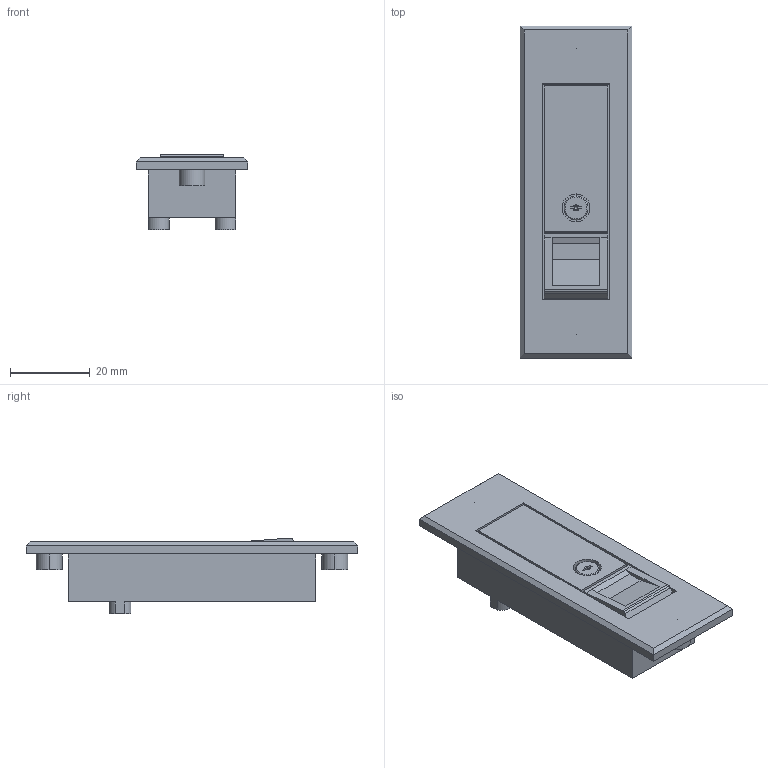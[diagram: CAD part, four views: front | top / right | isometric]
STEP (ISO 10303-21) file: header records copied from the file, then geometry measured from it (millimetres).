
FILE_DESCRIPTION (( 'STEP AP203' ), '1' );
FILE_NAME ('SDH082027.STEP', '2024-02-19T12:41:18', ( '' ), ( '' ), 'SwSTEP 2.0', 'SolidWorks 2022', '' );
FILE_SCHEMA (( 'CONFIG_CONTROL_DESIGN' ));
Length unit declared in the file: millimetre
Products named in the file (1): SDH082027
Bounding box: 28 x 83 x 18.95 mm (x, y, z)
Volume: 21633.4 mm3; surface area: 10386.7 mm2
Topology: 2 solids, 2 shells, 98 faces, 240 edges, 149 vertices
Faces by surface type: plane 61, bspline 22, cylinder 13, cone 2
Entity records: 3105 total; most frequent: CARTESIAN_POINT 864, ORIENTED_EDGE 460, DIRECTION 414, EDGE_CURVE 230, VECTOR 152, LINE 152, VERTEX_POINT 149, AXIS2_PLACEMENT_3D 131
